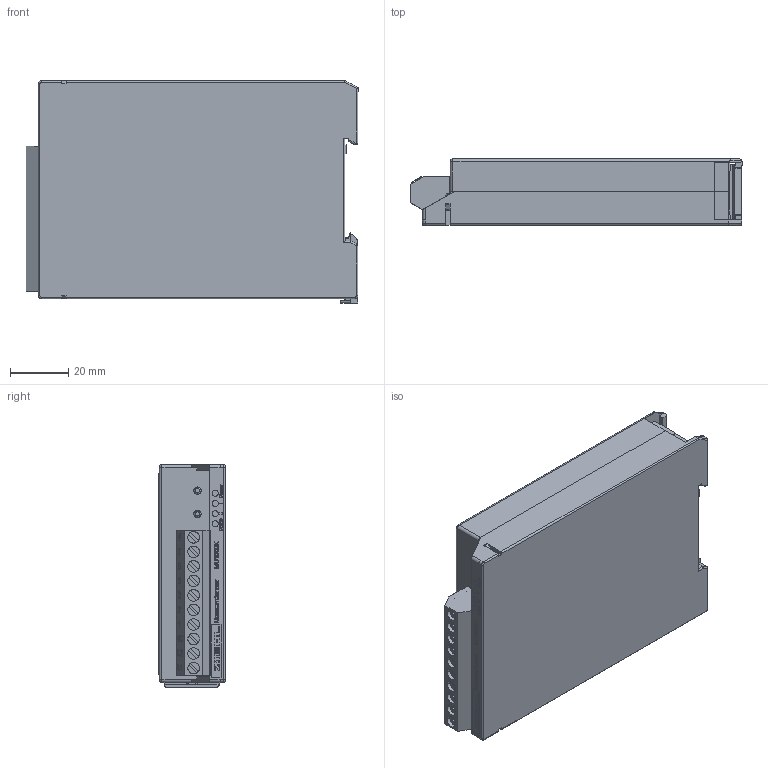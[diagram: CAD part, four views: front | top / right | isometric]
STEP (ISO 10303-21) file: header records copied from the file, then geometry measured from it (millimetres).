
FILE_DESCRIPTION (( 'STEP AP214' ), '1' );
FILE_NAME ('12370-1903-00_3D.STEP', '2019-01-21T13:50:34', ( '' ), ( '' ), 'SwSTEP 2.0', 'SolidWorks 2018', '' );
FILE_SCHEMA (( 'AUTOMOTIVE_DESIGN' ));
Length unit declared in the file: millimetre
Products named in the file (12): 12370-1903-00_3D; K-Unterteil 1045 1940^12370-1903-00_3D; Typenschild 12370-1205-02_3D^12370-1903-00_3D; K-Riegel^12370-1903-00_3D; Typenschild Unterteil 12370-1202-03_MU1000K_LED^12370-1903-00_3D; pan head cross recess screw_din_ISO 7045 - M3 x 4 - Z --- 4N; Tasterknöpfe^12370-1903-00_3D; Klemme 31147110^12370-1903-00_3D; K-Leiterpklatte 60 lang^12370-1903-00_3D; Typenschild Klemme 12370-1207-00^12370-1903-00_3D; Druck Set_Down^12370-1903-00_3D; K-Deckel1045 1920^12370-1903-00_3D
Assembly tree (11 placements, depth 2):
  12370-1903-00_3D
    K-Unterteil 1045 1940^12370-1903-00_3D
    K-Deckel1045 1920^12370-1903-00_3D
    K-Leiterpklatte 60 lang^12370-1903-00_3D
    K-Riegel^12370-1903-00_3D
    pan head cross recess screw_din_ISO 7045 - M3 x 4 - Z --- 4N
    Klemme 31147110^12370-1903-00_3D
    Tasterknöpfe^12370-1903-00_3D
    Druck Set_Down^12370-1903-00_3D
    Typenschild Unterteil 12370-1202-03_MU1000K_LED^12370-1903-00_3D
    Typenschild Klemme 12370-1207-00^12370-1903-00_3D
    Typenschild 12370-1205-02_3D^12370-1903-00_3D
Bounding box: 114.29 x 22.9 x 76.65 mm (x, y, z)
Volume: 50148.3 mm3; surface area: 63568.1 mm2
Topology: 15 solids, 467 shells, 1316 faces, 6075 edges, 5279 vertices
Faces by surface type: plane 934, cylinder 222, bspline 66, cone 40, torus 29, sphere 25
Entity records: 74063 total; most frequent: CARTESIAN_POINT 24724, ORIENTED_EDGE 8154, DIRECTION 7869, EDGE_CURVE 6051, VERTEX_POINT 5279, LINE 4227, VECTOR 4227, AXIS2_PLACEMENT_3D 1821
